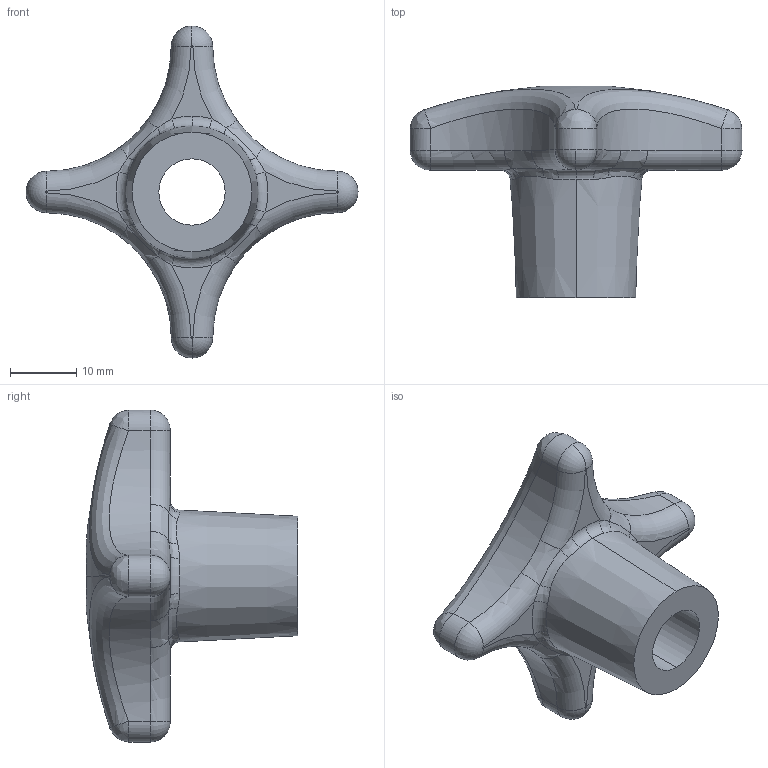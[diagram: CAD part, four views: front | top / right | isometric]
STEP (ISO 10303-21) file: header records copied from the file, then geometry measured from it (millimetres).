
FILE_DESCRIPTION (( 'STEP AP203' ), '1' );
FILE_NAME ('70040.W0750.step', '2019-01-26T19:33:31', ( '' ), ( '' ), 'SwSTEP 2.0', 'SolidWorks 2017', '' );
FILE_SCHEMA (( 'CONFIG_CONTROL_DESIGN' ));
Length unit declared in the file: millimetre
Products named in the file (1): 70040.W0750
Bounding box: 50 x 31.81 x 50 mm (x, y, z)
Volume: 12324.8 mm3; surface area: 4956.8 mm2
Topology: 1 solids, 1 shells, 66 faces, 158 edges, 94 vertices
Faces by surface type: bspline 24, torus 19, cylinder 13, plane 6, cone 2, sphere 2
Entity records: 3664 total; most frequent: CARTESIAN_POINT 2166, ORIENTED_EDGE 316, DIRECTION 293, EDGE_CURVE 158, AXIS2_PLACEMENT_3D 139, CIRCLE 96, VERTEX_POINT 94, EDGE_LOOP 68
